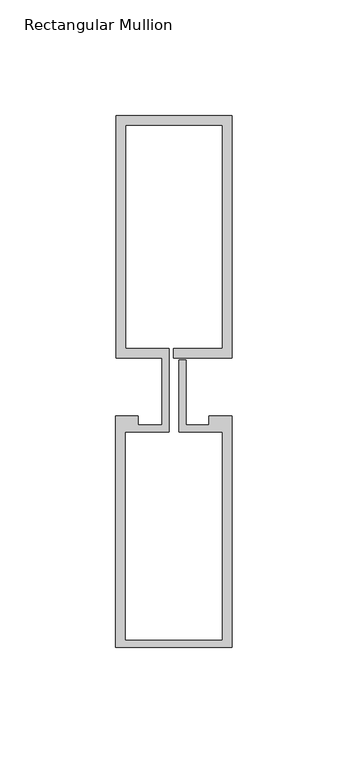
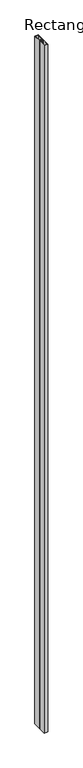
"""IFC4 building model written with IfcOpenShell, lengths in millimetres: member geometry, Rectangular Mullion : Reynaers_CW-50_Mullion-Transom_Vertical_104.5mm_Facecap-02D."""

from ifc_helpers import new_model, si_unit, frame, origin, place, context, project, spatial, polyline, outline, extrude, source, transform, mapped, element, save


def rectangular_mullion_4120e22d(model_context):
    return source(origin(), model_context, "Body", "SweptSolid", [
        extrude(outline(polyline([(-24.8004059, 117.0), (25.1995941, 117.0), (25.1995941, 12.5), (0.0, 12.5), (0.0, 16.5), (21.1995941, 16.5), (21.1995941, 113.0), (-20.8004059, 113.0), (-20.8004059, 16.5), (-1.9004059, 16.5), (-1.9004059, -19.5), (-20.994845, -19.5), (-20.994845, -109.4191338), (21.1995941, -109.4191338), (21.1995941, -19.5), (2.2995941, -19.5), (2.2995941, 11.5), (5.2995941, 11.5), (5.2995941, -16.5), (15.2996495, -16.5), (15.2996495, -12.5), (25.1995941, -12.5), (25.1995941, -112.5), (-24.994845, -112.5), (-24.994845, -12.5), (-15.2996495, -12.5), (-15.2996495, -16.5), (-4.9004059, -16.5), (-4.9004059, 12.5), (-24.8004059, 12.5), (-24.8004059, 117.0)])), frame((0.0, 0.0, -10400.0), z_axis=(0.0, 0.0, 1.0), x_axis=(1.0, 0.0, 0.0)), (0.0, 0.0, 1.0), 10400.0),
    ])


if __name__ == "__main__":
    model = new_model("IFC4")
    model_context = context("Model", 3, world=origin())
    ifc_project = project(units=[si_unit("LENGTHUNIT", "METRE", prefix="MILLI")], contexts=[model_context])
    site = spatial("IfcSite", under=ifc_project)
    building = spatial("IfcBuilding", under=site)
    placement = place(None, origin())
    rectangular_mullion_shape = rectangular_mullion_4120e22d(model_context)
    element("IfcMember", 1, ObjectType="Rectangular Mullion : Reynaers_CW-50_Mullion-Transom_Vertical_104.5mm_Facecap-02D", at=placement, inside=building, context=model_context, shape_type="MappedRepresentation", body=[
        mapped(rectangular_mullion_shape, transform((0.0, 0.0, 0.0), x_axis=(1.0, 0.0, 0.0), y_axis=(0.0, 1.0, 0.0), z_axis=(0.0, 0.0, 1.0))),
    ])
    save(model, "model.ifc")
